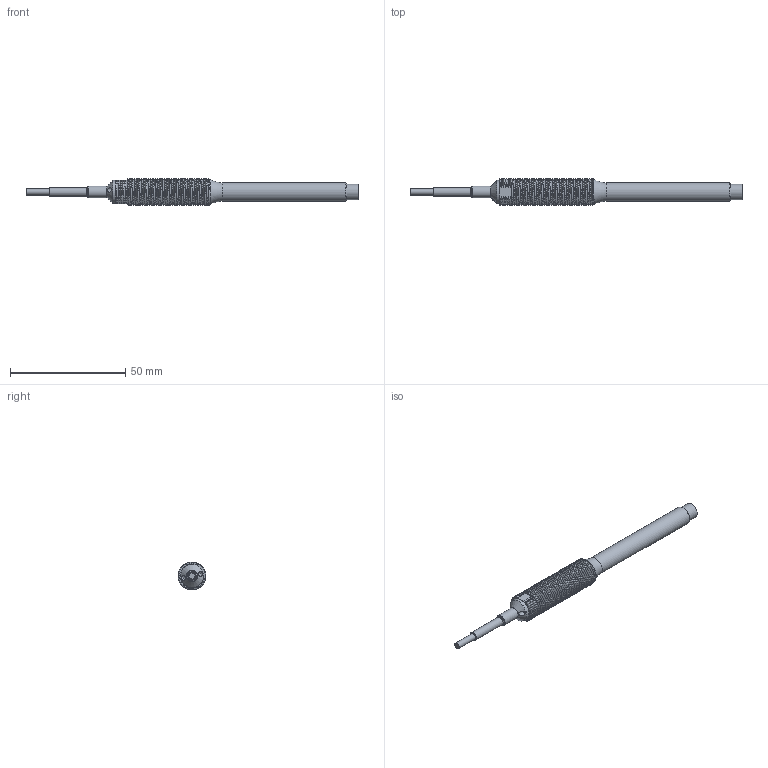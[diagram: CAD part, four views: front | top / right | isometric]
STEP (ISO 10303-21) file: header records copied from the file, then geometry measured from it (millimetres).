
FILE_DESCRIPTION( ( 'STEP AP214' ), '1' );
FILE_NAME( 'N:/Engineering/CAD_Solid/Wirbelstrom/Wirbelstromsensoren/T2/T2_G_M12_KA_110_LANG.stp', '2011-07-05T07:23:04', ( ' ' ), ( ' ' ), 'XStep 1.0', ' ', ' ' );
FILE_SCHEMA( ( 'CONFIG_CONTROL_DESIGN) ( )' ) );
Length unit declared in the file: metre
Products named in the file (4): 1; 2; 3; 4
Bounding box: 143.9 x 12 x 12 mm (x, y, z)
Surface area: 4669.7 mm2 (no closed solid volume)
Topology: 0 solids, 57 shells, 58 faces, 283 edges, 267 vertices
Faces by surface type: bspline 22, cylinder 18, plane 10, torus 4, cone 4
Full cylindrical faces by diameter (mm): 2 x2, 2.7 x1, 3.7 x1, 5 x1, 6.7 x1, 8 x1, 10 x1
Entity records: 103325 total; most frequent: CARTESIAN_POINT 101705, ORIENTED_EDGE 257, EDGE_CURVE 257, VERTEX_POINT 257, DIRECTION 205, B_SPLINE_CURVE_WITH_KNOTS 104, AXIS2_PLACEMENT_3D 78, FACE_BOUND 76
